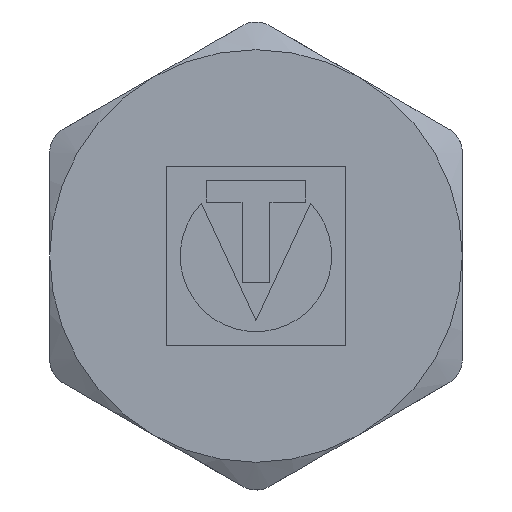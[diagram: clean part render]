
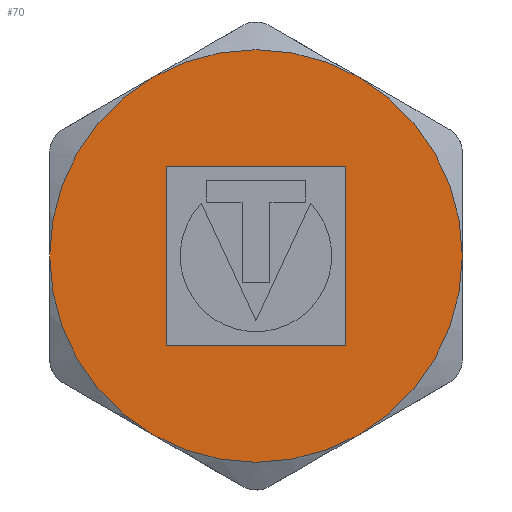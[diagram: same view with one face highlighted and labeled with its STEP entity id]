
A CAD part, front view. The second image highlights one B-rep face of the part: STEP entity #70.
In plain terms, the highlighted planar face has unit normal (0, -1, 0).
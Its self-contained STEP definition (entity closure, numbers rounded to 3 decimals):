
#70=ADVANCED_FACE('',(#276,#278),#280,.F.);
#276=FACE_BOUND('',#277,.T.);
#277=EDGE_LOOP('',(#539,#540,#541,#542,#543));
#278=FACE_BOUND('',#279,.T.);
#279=EDGE_LOOP('',(#544,#545,#546,#547));
#280=PLANE('',#281);
#281=AXIS2_PLACEMENT_3D('',#282,#283,#284);
#282=CARTESIAN_POINT('',(0.,0.,0.));
#283=DIRECTION('',(0.,1.,0.));
#284=DIRECTION('',(-1.,0.,0.));
#539=ORIENTED_EDGE('',*,*,#696,.T.);
#540=ORIENTED_EDGE('',*,*,#695,.T.);
#541=ORIENTED_EDGE('',*,*,#694,.T.);
#542=ORIENTED_EDGE('',*,*,#693,.T.);
#543=ORIENTED_EDGE('',*,*,#692,.T.);
#544=ORIENTED_EDGE('',*,*,#697,.F.);
#545=ORIENTED_EDGE('',*,*,#698,.F.);
#546=ORIENTED_EDGE('',*,*,#699,.F.);
#547=ORIENTED_EDGE('',*,*,#700,.F.);
#692=EDGE_CURVE('',#791,#824,#836,.F.);
#693=EDGE_CURVE('',#800,#791,#837,.F.);
#694=EDGE_CURVE('',#808,#800,#838,.F.);
#695=EDGE_CURVE('',#814,#808,#839,.F.);
#696=EDGE_CURVE('',#824,#814,#840,.F.);
#697=EDGE_CURVE('',#841,#842,#843,.F.);
#698=EDGE_CURVE('',#844,#841,#845,.F.);
#699=EDGE_CURVE('',#846,#844,#847,.F.);
#700=EDGE_CURVE('',#842,#846,#848,.F.);
#791=VERTEX_POINT('',#1663);
#800=VERTEX_POINT('',#1763);
#808=VERTEX_POINT('',#1896);
#814=VERTEX_POINT('',#1964);
#824=VERTEX_POINT('',#2116);
#836=CIRCLE('',#2334,23.);
#837=CIRCLE('',#2338,23.);
#838=CIRCLE('',#2342,23.);
#839=CIRCLE('',#2346,23.);
#840=CIRCLE('',#2350,23.);
#841=VERTEX_POINT('',#2354);
#842=VERTEX_POINT('',#2355);
#843=LINE('',#2356,#2357);
#844=VERTEX_POINT('',#2359);
#845=LINE('',#2360,#2361);
#846=VERTEX_POINT('',#2363);
#847=LINE('',#2364,#2365);
#848=LINE('',#2367,#2368);
#1663=CARTESIAN_POINT('',(-11.5,0.,-19.919));
#1763=CARTESIAN_POINT('',(-23.,0.,0.));
#1896=CARTESIAN_POINT('',(-11.5,0.,19.919));
#1964=CARTESIAN_POINT('',(11.5,0.,19.919));
#2116=CARTESIAN_POINT('',(23.,0.,0.));
#2334=AXIS2_PLACEMENT_3D('',#2335,#2336,#2337);
#2335=CARTESIAN_POINT('',(0.,0.,0.));
#2336=DIRECTION('',(0.,1.,0.));
#2337=DIRECTION('',(1.,0.,0.));
#2338=AXIS2_PLACEMENT_3D('',#2339,#2340,#2341);
#2339=CARTESIAN_POINT('',(0.,0.,0.));
#2340=DIRECTION('',(0.,1.,0.));
#2341=DIRECTION('',(-0.5,0.,-0.866));
#2342=AXIS2_PLACEMENT_3D('',#2343,#2344,#2345);
#2343=CARTESIAN_POINT('',(0.,0.,0.));
#2344=DIRECTION('',(0.,1.,0.));
#2345=DIRECTION('',(-1.,0.,0.));
#2346=AXIS2_PLACEMENT_3D('',#2347,#2348,#2349);
#2347=CARTESIAN_POINT('',(0.,0.,0.));
#2348=DIRECTION('',(0.,1.,0.));
#2349=DIRECTION('',(-0.5,0.,0.866));
#2350=AXIS2_PLACEMENT_3D('',#2351,#2352,#2353);
#2351=CARTESIAN_POINT('',(0.,0.,0.));
#2352=DIRECTION('',(0.,1.,0.));
#2353=DIRECTION('',(0.5,0.,0.866));
#2354=CARTESIAN_POINT('',(-10.002,0.,10.002));
#2355=CARTESIAN_POINT('',(-10.002,0.,-9.998));
#2356=CARTESIAN_POINT('',(-10.002,0.,-9.998));
#2357=VECTOR('',#2358,1.);
#2358=DIRECTION('',(0.,0.,1.));
#2359=CARTESIAN_POINT('',(10.002,0.,10.002));
#2360=CARTESIAN_POINT('',(-10.002,0.,10.002));
#2361=VECTOR('',#2362,1.);
#2362=DIRECTION('',(1.,0.,0.));
#2363=CARTESIAN_POINT('',(9.998,0.,-9.998));
#2364=CARTESIAN_POINT('',(10.002,0.,10.002));
#2365=VECTOR('',#2366,1.);
#2366=DIRECTION('',(0.,0.,-1.));
#2367=CARTESIAN_POINT('',(9.998,0.,-9.998));
#2368=VECTOR('',#2369,1.);
#2369=DIRECTION('',(-1.,0.,0.));
